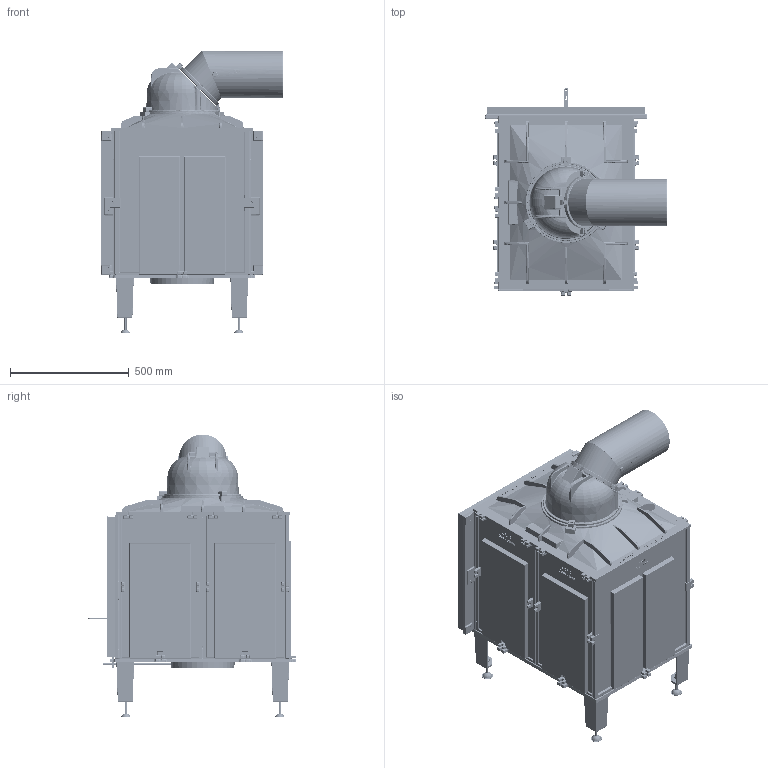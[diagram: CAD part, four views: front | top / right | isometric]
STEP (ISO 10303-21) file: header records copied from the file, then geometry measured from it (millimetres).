
FILE_DESCRIPTION (( 'STEP AP214' ), '1' );
FILE_NAME ('Firetherm 12.STEP', '2018-07-17T13:19:09', ( 'SysAdmin' ), ( '' ), 'SwSTEP 2.0', 'SolidWorks 2018', '' );
FILE_SCHEMA (( 'AUTOMOTIVE_DESIGN' ));
Length unit declared in the file: millimetre
Products named in the file (29): DIN933-M10x50; K2308_0_Bearbeitung; K1803_0; K2585_0; K1026; Gabel M8_0; K1025; KA-15 K2401 modif nov 2016 propose Buggin Rev_D_0; Seite_Rückwandstein hoch ETquer_0; K2591_Var3_0; K2400_0; K1691_1; K2312_0; K1774_0; KA-5 K2309 modif nov 2016 propose Buggin_0; Seite_Rückwandstein ETquer_0; Seitenstein hoch ETquer klein_0; K2307_0; Seitenstein ETquer klein_0; K2342_0; K2402_0; K745 Montage; Firetherm 12; DIN934-M10; Stellfuß_0; K745_Original_Bearbeitung; Bodenplatte klein schamotte geschnitten_0; Bodenplatte schamotte_0; Abgang 200mm
Assembly tree (68 placements, depth 3):
  Firetherm 12
    K2342_0  x4
    K2307_0
    KA-5 K2309 modif nov 2016 propose Buggin_0
    K2312_0  x2
    K2400_0
    Seite_Rückwandstein hoch ETquer_0
    Abgang 200mm
      K1025
      K1026
      K1803_0  x3
      DIN933-M10x50  x3
    Bodenplatte schamotte_0
    Bodenplatte klein schamotte geschnitten_0
    K745 Montage  x4
      K745_Original_Bearbeitung
      Stellfuß_0
      DIN934-M10
    K2402_0  x2
    Seitenstein ETquer klein_0  x20
    K1803_0  x2
    Seitenstein hoch ETquer klein_0  x4
    Seite_Rückwandstein ETquer_0  x5
    K1774_0
    K1691_1
    K2591_Var3_0
    KA-15 K2401 modif nov 2016 propose Buggin Rev_D_0
    Gabel M8_0
    K2585_0
    K2308_0_Bearbeitung
Bounding box: 763.41 x 875.51 x 1190.07 mm (x, y, z)
Volume: 75713802.4 mm3; surface area: 11974839.7 mm2
Topology: 73 solids, 84 shells, 16206 faces, 41575 edges, 25164 vertices
Faces by surface type: bspline 6376, plane 4305, cylinder 3977, sphere 787, torus 504, cone 257
Entity records: 527009 total; most frequent: CARTESIAN_POINT 296027, ORIENTED_EDGE 59524, DIRECTION 31953, EDGE_CURVE 29762, VERTEX_POINT 18429, EDGE_LOOP 12015, ADVANCED_FACE 11649, FACE_OUTER_BOUND 11649
